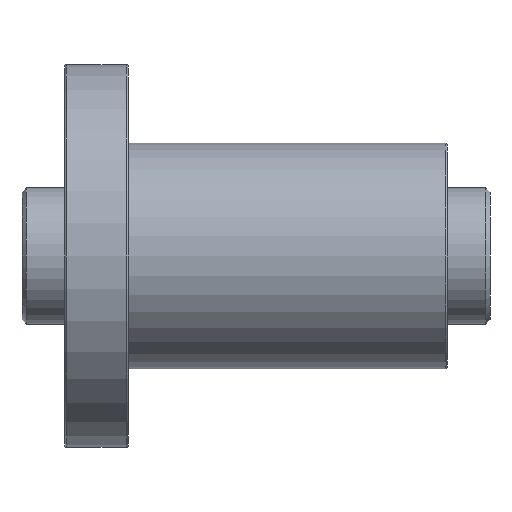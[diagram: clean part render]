
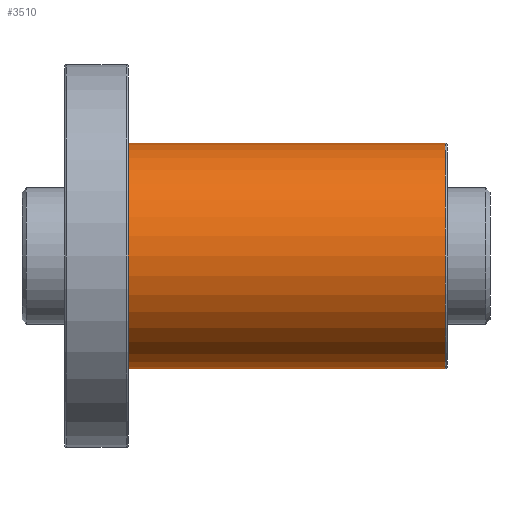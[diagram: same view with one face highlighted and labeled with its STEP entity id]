
A CAD part, front view. The second image highlights one B-rep face of the part: STEP entity #3510.
In plain terms, the highlighted cylindrical face has radius 26.5 mm (diameter 53 mm), a partial arc.
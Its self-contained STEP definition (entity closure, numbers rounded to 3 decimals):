
#65 = CYLINDRICAL_SURFACE ( 'NONE', #2372, 26.5 ) ;
#123 = FACE_OUTER_BOUND ( 'NONE', #777, .T. ) ;
#210 = CIRCLE ( 'NONE', #4328, 26.5 ) ;
#281 = DIRECTION ( 'NONE',  ( 0., 0., 1. ) ) ;
#369 = EDGE_CURVE ( 'NONE', #2776, #3202, #210, .T. ) ;
#385 = AXIS2_PLACEMENT_3D ( 'NONE', #1723, #3250, #3991 ) ;
#777 = EDGE_LOOP ( 'NONE', ( #2232, #1310, #2263, #1124 ) ) ;
#1124 = ORIENTED_EDGE ( 'NONE', *, *, #3032, .T. ) ;
#1168 = VECTOR ( 'NONE', #2657, 1000. ) ;
#1257 = CARTESIAN_POINT ( 'NONE',  ( 15., 0., 26.5 ) ) ;
#1310 = ORIENTED_EDGE ( 'NONE', *, *, #369, .T. ) ;
#1423 = CARTESIAN_POINT ( 'NONE',  ( 89.5, 0., 26.5 ) ) ;
#1723 = CARTESIAN_POINT ( 'NONE',  ( 15., 0., 0. ) ) ;
#2040 = LINE ( 'NONE', #2692, #1168 ) ;
#2087 = CIRCLE ( 'NONE', #385, 26.5 ) ;
#2232 = ORIENTED_EDGE ( 'NONE', *, *, #3313, .F. ) ;
#2263 = ORIENTED_EDGE ( 'NONE', *, *, #3120, .T. ) ;
#2278 = DIRECTION ( 'NONE',  ( 0., 0., -1. ) ) ;
#2328 = DIRECTION ( 'NONE',  ( -1., 0., 0. ) ) ;
#2372 = AXIS2_PLACEMENT_3D ( 'NONE', #3967, #4004, #281 ) ;
#2657 = DIRECTION ( 'NONE',  ( -1., 0., 0. ) ) ;
#2692 = CARTESIAN_POINT ( 'NONE',  ( 126.953, 0., -26.5 ) ) ;
#2776 = VERTEX_POINT ( 'NONE', #2884 ) ;
#2884 = CARTESIAN_POINT ( 'NONE',  ( 89.5, 0., -26.5 ) ) ;
#2948 = CARTESIAN_POINT ( 'NONE',  ( 15., 0., -26.5 ) ) ;
#3032 = EDGE_CURVE ( 'NONE', #4026, #4287, #2087, .T. ) ;
#3120 = EDGE_CURVE ( 'NONE', #3202, #4026, #3546, .T. ) ;
#3202 = VERTEX_POINT ( 'NONE', #1423 ) ;
#3219 = CARTESIAN_POINT ( 'NONE',  ( 126.953, 0., 26.5 ) ) ;
#3250 = DIRECTION ( 'NONE',  ( 1., 0., 0. ) ) ;
#3313 = EDGE_CURVE ( 'NONE', #2776, #4287, #2040, .T. ) ;
#3416 = CARTESIAN_POINT ( 'NONE',  ( 89.5, 0., 0. ) ) ;
#3510 = ADVANCED_FACE ( 'NONE', ( #123 ), #65, .T. ) ;
#3546 = LINE ( 'NONE', #3219, #3950 ) ;
#3593 = DIRECTION ( 'NONE',  ( -1., 0., 0. ) ) ;
#3950 = VECTOR ( 'NONE', #3593, 1000. ) ;
#3967 = CARTESIAN_POINT ( 'NONE',  ( 126.953, 0., 0. ) ) ;
#3991 = DIRECTION ( 'NONE',  ( 0., 0., 1. ) ) ;
#4004 = DIRECTION ( 'NONE',  ( -1., 0., 0. ) ) ;
#4026 = VERTEX_POINT ( 'NONE', #1257 ) ;
#4287 = VERTEX_POINT ( 'NONE', #2948 ) ;
#4328 = AXIS2_PLACEMENT_3D ( 'NONE', #3416, #2328, #2278 ) ;
